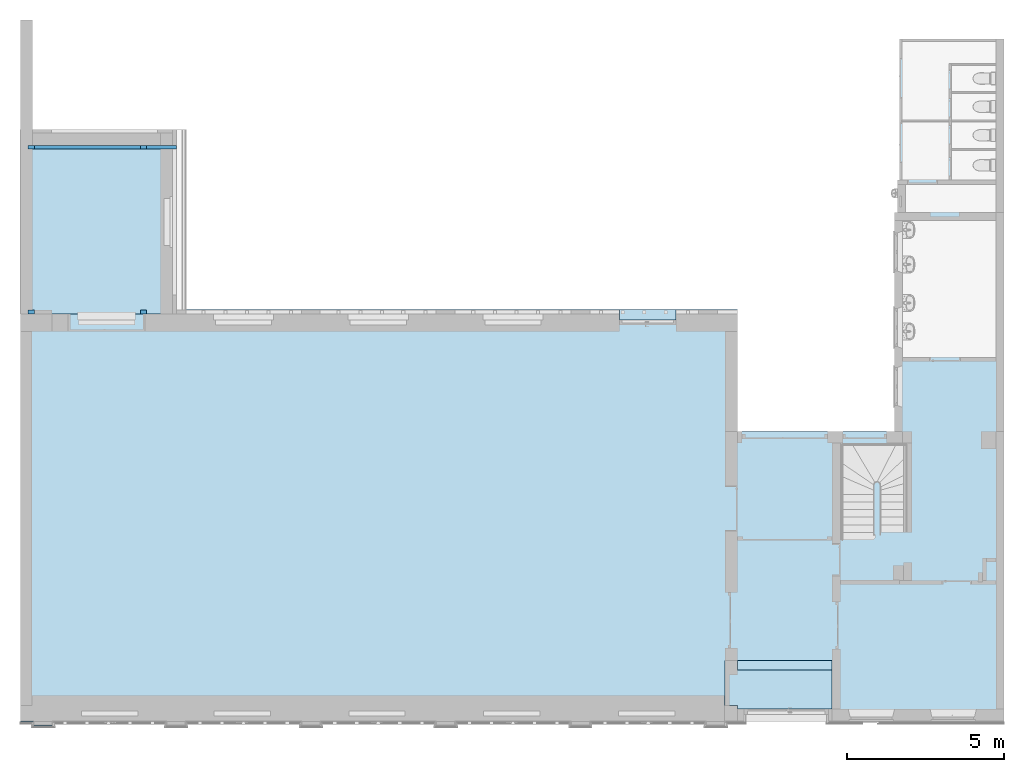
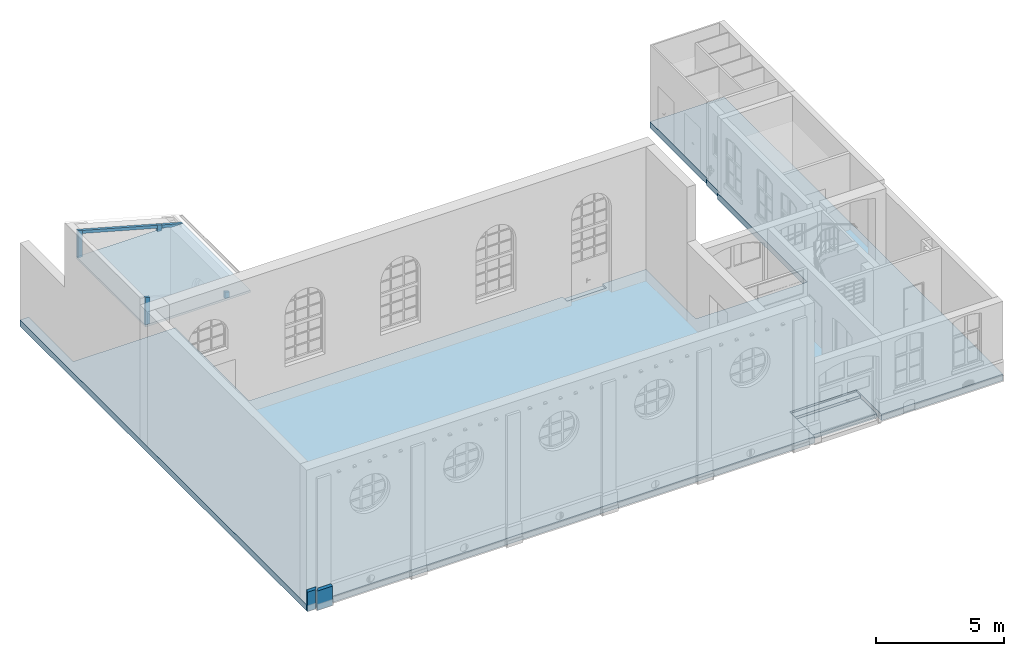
"""IFC4 building model written with IfcOpenShell, lengths in metres."""

import ifcopenshell
import ifcopenshell.guid

model = None  # the IFC model being written
_history = None  # IfcOwnerHistory: only IFC2X3 demands one
_inside = {}  # id of a spatial element -> (the spatial element, [elements in it])
_under = {}  # id of a project, library or spatial element -> (it, [spatial elements below it])
_declared = {}  # id of a project -> (the project, [libraries it declares])
_typed = {}  # id of a type object -> (the type object, [elements of that type])
_made_of = {}  # id of a material, layer set ... -> (it, [elements and type objects made of it])


def new_model(schema):
    """Start an empty IFC model of exactly this schema.

    Asked for "IFC4X3", IfcOpenShell would pick the latest addendum, in which some entities
    have other attributes; the version numbers below select the first issue.
    IFC2X3 requires an IfcOwnerHistory on every rooted entity: one is made here for all.
    """
    global model, _history
    if schema == "IFC4X3":
        model = ifcopenshell.file(schema_version=(4, 3, 0, 0))
    else:
        model = ifcopenshell.file(schema=schema)
    _inside.clear()
    _under.clear()
    _declared.clear()
    _typed.clear()
    _made_of.clear()
    _history = None
    if model.schema == "IFC2X3":
        org = make("IfcOrganization", Name="unknown")
        user = make(
            "IfcPersonAndOrganization",
            ThePerson=make("IfcPerson", FamilyName="unknown"),
            TheOrganization=org,
        )
        app = make(
            "IfcApplication",
            ApplicationDeveloper=org,
            Version="unknown",
            ApplicationFullName="unknown",
            ApplicationIdentifier="unknown",
        )
        _history = make(
            "IfcOwnerHistory",
            OwningUser=user,
            OwningApplication=app,
            ChangeAction="ADDED",
            CreationDate=0,
        )
    return model


def make(cls, **values):
    """One entity of the class cls with the attributes given. An attribute that is None is left unset."""
    return model.create_entity(
        cls, **{name: value for name, value in values.items() if value is not None}
    )


def entity(cls, *values):
    """Any entity or typed value of the class cls, its attributes in the order of the schema. None: left unset."""
    e = model.create_entity(cls)
    for i, value in enumerate(values):
        if value is not None:
            e[i] = value
    return e


def rooted(cls, **values):
    """An entity with a GlobalId (a new one), such as an element, a storey or a relation."""
    return make(cls, GlobalId=ifcopenshell.guid.new(), OwnerHistory=_history, **values)


def si_unit(unit_type, name, prefix=None):
    """IfcSIUnit, for example si_unit("LENGTHUNIT", "METRE", prefix="MILLI")."""
    return make("IfcSIUnit", UnitType=unit_type, Prefix=prefix, Name=name)


def converted_unit(unit_type, name, factor, base, dimensions=None, offset=None):
    """IfcConversionBasedUnit, such as the inch: factor (a typed value) times the base unit."""
    return make(
        "IfcConversionBasedUnit"
        if offset is None
        else "IfcConversionBasedUnitWithOffset",
        ConversionOffset=offset,
        Dimensions=None
        if dimensions is None
        else entity("IfcDimensionalExponents", *dimensions),
        UnitType=unit_type,
        Name=name,
        ConversionFactor=make(
            "IfcMeasureWithUnit", ValueComponent=factor, UnitComponent=base
        ),
    )


def derived_unit(unit_type, elements):
    """IfcDerivedUnit: a product of units, each with its exponent."""
    return make(
        "IfcDerivedUnit",
        Elements=[
            make("IfcDerivedUnitElement", Unit=unit, Exponent=power)
            for unit, power in elements
        ],
        UnitType=unit_type,
    )


def assignment(units):
    """IfcUnitAssignment: the units of a project."""
    return None if units is None else make("IfcUnitAssignment", Units=units)


def point(xyz):
    """IfcCartesianPoint."""
    return None if xyz is None else make("IfcCartesianPoint", Coordinates=xyz)


def direction(xyz):
    """IfcDirection."""
    return None if xyz is None else make("IfcDirection", DirectionRatios=xyz)


def frame(location, z_axis=None, x_axis=None):
    """IfcAxis2Placement3D, a coordinate frame: its origin and axes. An axis left out is left unset."""
    return make(
        "IfcAxis2Placement3D",
        Location=point(location),
        Axis=direction(z_axis),
        RefDirection=direction(x_axis),
    )


def frame_2d(location, x_axis=None):
    """IfcAxis2Placement2D, a coordinate frame in the plane: its origin and x axis."""
    return make(
        "IfcAxis2Placement2D", Location=point(location), RefDirection=direction(x_axis)
    )


def origin():
    """The frame at (0, 0, 0) with its axes left unset."""
    return frame((0.0, 0.0, 0.0))


def origin_with_axes():
    """The frame at (0, 0, 0) with the z axis (0, 0, 1) and the x axis (1, 0, 0) written out."""
    return frame((0.0, 0.0, 0.0), z_axis=(0.0, 0.0, 1.0), x_axis=(1.0, 0.0, 0.0))


def origin_2d_with_axis():
    """The frame at (0, 0) in the plane with the x axis (1, 0) written out."""
    return frame_2d((0.0, 0.0), x_axis=(1.0, 0.0))


def place(relative_to, where):
    """IfcLocalPlacement: puts the frame where relative to a parent placement (None: the world)."""
    return make(
        "IfcLocalPlacement", PlacementRelTo=relative_to, RelativePlacement=where
    )


def context(
    kind, dimensions, precision=None, world=None, true_north=None, identifier=None
):
    """IfcGeometricRepresentationContext, for example the 3D "Model" context."""
    return make(
        "IfcGeometricRepresentationContext",
        ContextIdentifier=identifier,
        ContextType=kind,
        CoordinateSpaceDimension=dimensions,
        Precision=precision,
        WorldCoordinateSystem=world,
        TrueNorth=true_north,
    )


def subcontext(parent, identifier, kind, view, scale=None):
    """IfcGeometricRepresentationSubContext, for example "Body" below "Model"."""
    return make(
        "IfcGeometricRepresentationSubContext",
        ContextIdentifier=identifier,
        ContextType=kind,
        ParentContext=parent,
        TargetScale=scale,
        TargetView=view,
    )


def project(units=None, contexts=None):
    """IfcProject with its units and contexts."""
    return rooted(
        "IfcProject",
        Name="project",
        RepresentationContexts=contexts,
        UnitsInContext=assignment(units),
    )


def spatial(cls, under=None, at=None, **own):
    """A site, building, storey or space (cls), placed at a placement, below another one or the project."""
    s = rooted(cls, ObjectPlacement=at, **own)
    if under is not None:
        _under.setdefault(under.id(), (under, []))[1].append(s)
    return s


def polyline(points):
    """IfcPolyline through the points."""
    return make("IfcPolyline", Points=[point(p) for p in points])


def profile(cls, at=None, kind="AREA", **sizes):
    """A parametric profile (cls). Its sizes go by their IFC names, for example OverallWidth=200.0."""
    return make(cls, ProfileType=kind, Position=at, **sizes)


def rectangle(**sizes):
    """IfcRectangleProfileDef."""
    return profile("IfcRectangleProfileDef", **sizes)


def outline(outer, holes=None, kind="AREA"):
    """IfcArbitraryClosedProfileDef: a profile drawn as a closed curve; with holes, ...WithVoids."""
    if holes is None:
        return make("IfcArbitraryClosedProfileDef", ProfileType=kind, OuterCurve=outer)
    return make(
        "IfcArbitraryProfileDefWithVoids",
        ProfileType=kind,
        OuterCurve=outer,
        InnerCurves=holes,
    )


def extrude(swept, where, along, depth):
    """IfcExtrudedAreaSolid: the profile swept, set in the frame where, extruded along a direction by depth."""
    return make(
        "IfcExtrudedAreaSolid",
        SweptArea=swept,
        Position=where,
        ExtrudedDirection=direction(along),
        Depth=depth,
    )


def clip(a, b, op="DIFFERENCE"):
    """IfcBooleanClippingResult: the solid a cut by the half space b."""
    return make(
        "IfcBooleanClippingResult", Operator=op, FirstOperand=a, SecondOperand=b
    )


def halfspace(plane, agree):
    """IfcHalfSpaceSolid: all space on one side of the plane z = 0 of the frame plane."""
    return make(
        "IfcHalfSpaceSolid",
        BaseSurface=make("IfcPlane", Position=plane),
        AgreementFlag=agree,
    )


def faces_of(points, faces, orient=None, outer=None):
    """IfcFace entities. A face is a list of loops; a loop is a list of indices into points, from 0.

    orient and outer hold one flag for each loop. By default every Orientation is true, the
    first loop of a face is its IfcFaceOuterBound and the others are IfcFaceBound.
    """
    made = []
    for i, loops in enumerate(faces):
        bounds = []
        for j, loop in enumerate(loops):
            is_outer = j == 0 if outer is None else outer[i][j]
            bounds.append(
                make(
                    "IfcFaceOuterBound" if is_outer else "IfcFaceBound",
                    Bound=make("IfcPolyLoop", Polygon=[points[k] for k in loop]),
                    Orientation=True if orient is None else orient[i][j],
                )
            )
        made.append(make("IfcFace", Bounds=bounds))
    return made


def faceted_brep(points, faces, orient=None, outer=None, voids=None):
    """IfcFacetedBrep: a solid bounded by flat faces; with voids (closed shells), ...WithVoids."""
    shared = [point(p) for p in points]
    hull = make("IfcClosedShell", CfsFaces=faces_of(shared, faces, orient, outer))
    if voids is None:
        return make("IfcFacetedBrep", Outer=hull)
    return make(
        "IfcFacetedBrepWithVoids",
        Outer=hull,
        Voids=[
            make(cls, CfsFaces=faces_of(shared, fs, o, b)) for cls, fs, o, b in voids
        ],
    )


def shape(context_of_items, identifier, shape_type, items):
    """IfcShapeRepresentation: the items that make up one representation, for example the "Body"."""
    return make(
        "IfcShapeRepresentation",
        ContextOfItems=context_of_items,
        RepresentationIdentifier=identifier,
        RepresentationType=shape_type,
        Items=items,
    )


def material(Name=None, Category=None):
    """IfcMaterial."""
    return make("IfcMaterial", Name=Name, Category=Category)


def layer(
    of_material, thickness, ventilated=None, Name=None, Category=None, Priority=None
):
    """IfcMaterialLayer: one layer of a wall or slab, of a material (None: an air gap)."""
    return make(
        "IfcMaterialLayer",
        Material=of_material,
        LayerThickness=thickness,
        IsVentilated=ventilated,
        Name=Name,
        Category=Category,
        Priority=Priority,
    )


def layer_set(layers, Name=None):
    """IfcMaterialLayerSet."""
    return make("IfcMaterialLayerSet", MaterialLayers=layers, LayerSetName=Name)


def layer_usage(for_layer_set, set_direction, sense, offset, extent=None):
    """IfcMaterialLayerSetUsage: how a layer set lies in its element."""
    return make(
        "IfcMaterialLayerSetUsage",
        ForLayerSet=for_layer_set,
        LayerSetDirection=set_direction,
        DirectionSense=sense,
        OffsetFromReferenceLine=offset,
        ReferenceExtent=extent,
    )


def made_of(thing, what):
    """Note that an element or type object is made of a material, layer set ...; save() writes the relation."""
    if what is not None:
        _made_of.setdefault(what.id(), (what, []))[1].append(thing)
    return thing


def element(
    cls,
    number,
    at=None,
    inside=None,
    cuts=None,
    type_object=None,
    material=None,
    context=None,
    identifier="Body",
    shape_type=None,
    held_by="IfcProductDefinitionShape",
    body=None,
    shapes=None,
    **own,
):
    """One element of the class cls, such as IfcWall. Its Tag is "e" and its number.

    at: its placement. inside: the storey or other place that contains it. cuts: it is an
    opening in that element (IfcRelVoidsElement). A single representation is given by context,
    identifier, shape_type and body (its items); several are given by shapes. held_by: the class
    of the entity that holds the representations. save() writes the other relations.
    """
    e = rooted(cls, Tag="e%d" % number, ObjectPlacement=at, **own)
    if body is not None:
        shapes = [shape(context, identifier, shape_type, body)]
    if shapes is not None:
        e.Representation = make(held_by, Representations=shapes)
    if inside is not None:
        _inside.setdefault(inside.id(), (inside, []))[1].append(e)
    if cuts is not None:
        rooted(
            "IfcRelVoidsElement", RelatingBuildingElement=cuts, RelatedOpeningElement=e
        )
    if type_object is not None:
        _typed.setdefault(type_object.id(), (type_object, []))[1].append(e)
    return made_of(e, material)


def aggregate(whole, parts):
    """IfcRelAggregates: a whole, such as a stair, and the parts it consists of."""
    return rooted("IfcRelAggregates", RelatingObject=whole, RelatedObjects=parts)


def save(model, path):
    """Write the relations noted so far, then the file.

    IfcRelAggregates (storeys below a building ...), IfcRelContainedInSpatialStructure (elements
    in a storey), IfcRelDefinesByType, IfcRelAssociatesMaterial and IfcRelDeclares: one each for
    every whole, place, type object, material and project.
    """
    for whole, parts in _under.values():
        aggregate(whole, parts)
    for where, things in _inside.values():
        rooted(
            "IfcRelContainedInSpatialStructure",
            RelatedElements=things,
            RelatingStructure=where,
        )
    for kind, things in _typed.values():
        rooted("IfcRelDefinesByType", RelatedObjects=things, RelatingType=kind)
    for what, things in _made_of.values():
        rooted("IfcRelAssociatesMaterial", RelatedObjects=things, RelatingMaterial=what)
    for by, libraries in _declared.values():
        rooted("IfcRelDeclares", RelatingContext=by, RelatedDefinitions=libraries)
    model.write(path)


model = new_model("IFC4")

# Units and contexts
model_context = context("Model", 3, precision=1e-05, world=origin())
body_context = subcontext(model_context, "Body", "Model", "MODEL_VIEW")
ifc_project = project(units=[si_unit("LENGTHUNIT", "METRE"), si_unit("AREAUNIT", "SQUARE_METRE"), si_unit("VOLUMEUNIT", "CUBIC_METRE"), si_unit("MASSUNIT", "GRAM", prefix="KILO"), converted_unit("PLANEANGLEUNIT", "DEGREE", entity("IfcPlaneAngleMeasure", 0.0174532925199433), si_unit("PLANEANGLEUNIT", "RADIAN"), dimensions=[0, 0, 0, 0, 0, 0, 0]), derived_unit("THERMALTRANSMITTANCEUNIT", [(si_unit("POWERUNIT", "WATT"), 1), (si_unit("THERMODYNAMICTEMPERATUREUNIT", "KELVIN"), -1), (si_unit("LENGTHUNIT", "METRE"), -2)]), derived_unit("VOLUMETRICFLOWRATEUNIT", [(si_unit("LENGTHUNIT", "METRE"), 3), (converted_unit("TIMEUNIT", "hour", entity("IfcTimeMeasure", 3600.0), si_unit("TIMEUNIT", "SECOND"), dimensions=[0, 0, 1, 0, 0, 0, 0]), -1), (si_unit("LENGTHUNIT", "METRE"), -1)])], contexts=[model_context])

# Building, storeys
building_placement = place(None, origin())
building = spatial("IfcBuilding", under=ifc_project, at=building_placement, Name="Bestandsgebäude A - Sporthalle / Wohnhaus (TB 100-499)   ANPASSEN !!!", CompositionType="ELEMENT")
storey_1_placement = place(building_placement, origin())
storey_1 = spatial("IfcBuildingStorey", under=building, at=storey_1_placement, Name="Geb. A Erdgeschoss (TB 200-249)", CompositionType="ELEMENT", Elevation=0.0)
storey_2_placement = place(storey_1_placement, origin())
storey_2 = spatial("IfcBuildingStorey", under=storey_1, at=storey_2_placement, Name="Architektur (TB 200-209)", CompositionType="PARTIAL")

# Columns
column_1_placement = place(storey_2_placement, frame((-31.13, 18.25, 5.35)))
element("IfcColumn", 1, at=column_1_placement, inside=storey_2, PredefinedType="COLUMN", context=body_context, shape_type="Clipping", body=[
    clip(extrude(rectangle(XDim=0.2, YDim=0.12, at=frame_2d((0.1, 0.06), x_axis=(1.0, 0.0))), origin_with_axes(), (0.0, 0.0, 1.0), 1.3116635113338), halfspace(frame((0.1, 0.06, 1.28393105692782), z_axis=(-0.267238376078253, 0.0, -0.963630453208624), x_axis=(0.963630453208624, 0.0, -0.267238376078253)), True)),
])
for number, where in (
    (2, (-27.5439071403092, 18.25, 5.35)),
    (3, (-27.5439071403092, 13.0, 5.35)),
):
    element("IfcColumn", number, at=place(storey_2_placement, frame(where)), inside=storey_2, PredefinedType="COLUMN", context=body_context, shape_type="Clipping", body=[
        clip(extrude(rectangle(XDim=0.2, YDim=0.12, at=frame_2d((0.1, 0.06), x_axis=(1.0, 0.0))), origin_with_axes(), (0.0, 0.0, 1.0), 0.317151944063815), halfspace(frame((0.1, 0.06, 0.289419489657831), z_axis=(-0.267238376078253, 0.0, -0.963630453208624), x_axis=(0.963630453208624, 0.0, -0.267238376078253)), True)),
    ])
column_2_placement = place(storey_2_placement, frame((-31.13, 13.0, 5.35)))
element("IfcColumn", 4, at=column_2_placement, inside=storey_2, PredefinedType="COLUMN", context=body_context, shape_type="Clipping", body=[
    clip(extrude(rectangle(XDim=0.2, YDim=0.12, at=frame_2d((0.1, 0.06), x_axis=(1.0, 0.0))), origin_with_axes(), (0.0, 0.0, 1.0), 1.3116635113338), halfspace(frame((0.1, 0.06, 1.28393105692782), z_axis=(-0.267238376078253, 0.0, -0.963630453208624), x_axis=(0.963630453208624, 0.0, -0.267238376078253)), True)),
])

# Beam
beam_placement = place(storey_2_placement, frame((-31.13, 18.25, 5.35)))
element("IfcBeam", 5, at=beam_placement, inside=storey_2, PredefinedType="BEAM", context=body_context, shape_type="Brep", body=[
    faceted_brep([(4.73, 0.0, 0.0), (4.73, 0.12, 0.0), (4.20609285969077, 0.12, 0.0), (4.20609285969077, 0.0, 0.0), (0.0, 0.0, 1.31043104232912), (0.0, 0.12, 1.31043104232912), (0.0, 0.12, 1.16514777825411), (0.0, 0.0, 1.16514777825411)], [[[0, 1, 2, 3]], [[0, 4, 5, 1]], [[1, 5, 6, 2]], [[2, 6, 7, 3]], [[3, 7, 4, 0]], [[4, 7, 6, 5]]], orient=[[False], [False], [False], [False], [False], [False]]),
])

# Slabs
slab_1_placement = place(storey_2_placement, frame((-8.5, 1.64, -0.21)))
element("IfcSlab", 6, at=slab_1_placement, inside=storey_2, PredefinedType="FLOOR", context=body_context, shape_type="SweptSolid", body=[
    extrude(rectangle(XDim=0.300000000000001, YDim=3.02000000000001, at=frame_2d((1.51000000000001, -0.149999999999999), x_axis=(0.0, -1.0))), frame((0.0, 0.300000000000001, 0.0), z_axis=(0.0, 0.0, 1.0), x_axis=(1.0, 0.0, 0.0)), (0.0, 0.0, 1.0), 0.12),
])
slab_2_placement = place(storey_2_placement, frame((-8.9, 0.389999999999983, -0.41)))
element("IfcSlab", 7, at=slab_2_placement, inside=storey_2, PredefinedType="FLOOR", context=body_context, shape_type="SweptSolid", body=[
    extrude(outline(polyline([(0.0, 1.25000000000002), (0.0, 0.120000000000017), (0.4, 0.120000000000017), (0.4, 0.0), (3.42, 0.0), (3.42000000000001, 1.55000000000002), (0.0, 1.55000000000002), (0.0, 1.25000000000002)])), origin_with_axes(), (0.0, 0.0, 1.0), 0.2),
])
slab_3_placement = place(storey_2_placement, frame((-31.13, 13.0, 5.25)))
element("IfcSlab", 8, at=slab_3_placement, inside=storey_2, PredefinedType="FLOOR", context=body_context, shape_type="SweptSolid", body=[
    extrude(rectangle(XDim=4.73000000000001, YDim=5.37, at=frame_2d((-2.365, -2.685), x_axis=(-1.0, 1.53825742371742e-15))), frame((4.73000000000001, 5.36999999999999, 0.0), z_axis=(0.0, 0.0, 1.0), x_axis=(1.0, 0.0, 0.0)), (0.0, 0.0, 1.0), 0.1),
])

# Slab, opening
slab_4_placement = place(storey_2_placement, frame((-31.37, 0.0, -0.3)))
slab_4 = element("IfcSlab", 9, at=slab_4_placement, inside=storey_2, PredefinedType="FLOOR", context=body_context, shape_type="SweptSolid", body=[
    extrude(outline(polyline([(2.80260869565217, -8.69565217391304), (3.20260869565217, -8.69565217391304), (6.22260869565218, -8.69565217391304), (6.22260869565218, -10.635652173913), (11.7026086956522, -10.635652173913), (11.7026086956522, 11.124347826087), (8.36260869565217, 11.124347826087), (8.36260869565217, 6.62434782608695), (8.31260869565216, 6.62434782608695), (8.31260869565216, 5.59434782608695), (8.21260869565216, 5.59434782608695), (8.21260869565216, -1.38565217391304), (3.20260869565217, -1.38565217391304), (3.20260869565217, 2.50434782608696), (-14.6773913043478, 2.50434782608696), (-14.6773913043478, 8.24434782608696), (-19.2773913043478, 8.24434782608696), (-19.2773913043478, 11.7343478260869), (-19.6673913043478, 11.7343478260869), (-19.6673913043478, -10.635652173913), (3.20260869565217, -10.635652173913), (3.20260869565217, -10.125652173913), (2.80260869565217, -10.125652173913), (2.80260869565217, -8.69565217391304)])), frame((19.6673913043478, 10.635652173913, 0.0), z_axis=(0.0, 0.0, 1.0), x_axis=(1.0, 0.0, 0.0)), (0.0, 0.0, 1.0), 0.3),
    extrude(rectangle(XDim=0.400000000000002, YDim=1.43, at=origin_2d_with_axis()), frame((22.67, 1.225, 0.09), z_axis=(0.0, 0.0, 1.0), x_axis=(1.0, 0.0, 0.0)), (0.0, 0.0, 1.0), 0.21),
])
opening_placement = place(slab_4_placement, frame((19.1097777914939, 12.8, 0.2)))
element("IfcOpeningElement", 10, at=opening_placement, cuts=slab_4, Name="Slab Recess", ObjectType="Recess", context=body_context, shape_type="SweptSolid", body=[
    extrude(outline(polyline([(0.900055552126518, 0.1700003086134), (-0.900166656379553, 0.169999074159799), (-0.899944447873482, -0.169999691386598), (0.900055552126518, -0.169999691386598), (0.900055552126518, 0.1700003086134)])), frame((0.900166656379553, 0.169999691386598, 0.0), z_axis=(0.0, 0.0, 1.0), x_axis=(1.0, 0.0, 0.0)), (0.0, 0.0, 1.0), 0.1),
])

# Walls
ifc_material_1 = material(Name="concrete")
ifc_layer_1 = layer(ifc_material_1, 0.05)
ifc_layer_set_1 = layer_set([ifc_layer_1])
ifc_layer_usage_1 = layer_usage(ifc_layer_set_1, "AXIS2", "POSITIVE", 0.0)
wall_1_placement = place(storey_2_placement, frame((-30.95, 0.0, -0.3), z_axis=(0.0, 0.0, 1.0), x_axis=(-1.0, 0.0, 0.0)))
element("IfcWall", 11, at=wall_1_placement, inside=storey_2, material=ifc_layer_usage_1, Name="reinforced - bearing", PredefinedType="USERDEFINED", context=body_context, shape_type="Clipping", body=[
    clip(extrude(outline(polyline([(-0.419999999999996, -0.05), (0.0, -0.05), (0.0, 0.0), (-0.370000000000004, 0.0), (-0.419999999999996, -0.05)])), frame((0.419999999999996, 0.05, 0.0), z_axis=(0.0, 0.0, 1.0), x_axis=(1.0, 0.0, 0.0)), (0.0, 0.0, 1.0), 1.02), halfspace(frame((0.222499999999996, 0.025, 0.97), z_axis=(0.0, -0.894427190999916, -0.447213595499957), x_axis=(1.0, 0.0, 0.0)), True)),
])
ifc_material_2 = material(Name="concrete")
ifc_layer_2 = layer(ifc_material_2, 0.05)
ifc_layer_set_2 = layer_set([ifc_layer_2])
ifc_layer_usage_2 = layer_usage(ifc_layer_set_2, "AXIS2", "POSITIVE", 0.0)
wall_2_placement = place(storey_2_placement, frame((-30.35, -0.119999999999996, -0.3), z_axis=(0.0, 0.0, 1.0), x_axis=(-1.0, 2.8421709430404e-16, 0.0)))
element("IfcWall", 12, at=wall_2_placement, inside=storey_2, material=ifc_layer_usage_2, Name="reinforced - bearing", PredefinedType="USERDEFINED", context=body_context, shape_type="Clipping", body=[
    clip(extrude(outline(polyline([(-0.65, -0.0500000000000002), (-0.05, -0.0500000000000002), (0.0, 0.0), (-0.7, 0.0), (-0.65, -0.0500000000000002)])), frame((0.65, 0.0500000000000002, 0.0), z_axis=(0.0, 0.0, 1.0), x_axis=(1.0, 0.0, 0.0)), (0.0, 0.0, 1.0), 1.02), halfspace(frame((0.3, 0.025, 0.97), z_axis=(5.9446380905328e-17, -0.894427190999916, -0.447213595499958), x_axis=(1.0, 0.0, 0.0)), True)),
])

save(model, "model.ifc")
